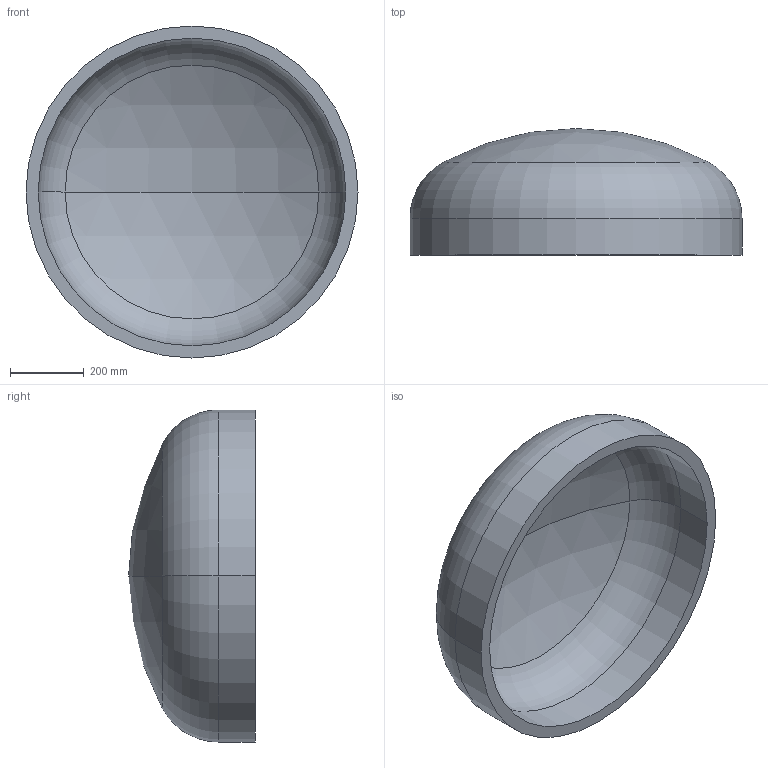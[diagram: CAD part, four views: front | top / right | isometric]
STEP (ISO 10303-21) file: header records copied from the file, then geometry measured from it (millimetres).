
FILE_DESCRIPTION (( 'STEP AP203' ), '1' );
FILE_NAME ('DIN 28013 Korbbogenform_-_Boden DIN 28013 - 900 x 100 - I - s=33.step', '2016-07-01T08:29:54', ( '' ), ( '' ), 'SwSTEP 2.0', 'SolidWorks 2013', '' );
FILE_SCHEMA (( 'CONFIG_CONTROL_DESIGN' ));
Length unit declared in the file: millimetre
Products named in the file (1): DIN 28013 Korbbogenform_-_Boden DIN 28013 - 900 x 100 - I - s=33
Bounding box: 900 x 343.42 x 900 mm (x, y, z)
Volume: 36768311.7 mm3; surface area: 2320546.9 mm2
Topology: 1 solids, 1 shells, 13 faces, 24 edges, 14 vertices
Faces by surface type: torus 4, cylinder 4, sphere 4, plane 1
Entity records: 407 total; most frequent: DIRECTION 72, CARTESIAN_POINT 52, ORIENTED_EDGE 48, AXIS2_PLACEMENT_3D 34, EDGE_CURVE 24, CIRCLE 20, VERTEX_POINT 14, EDGE_LOOP 14
